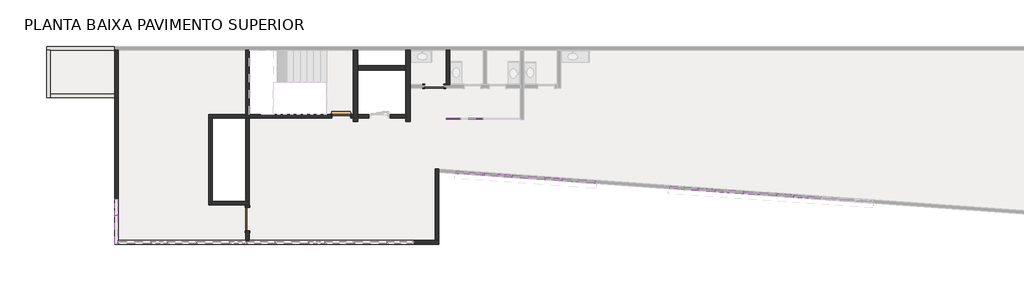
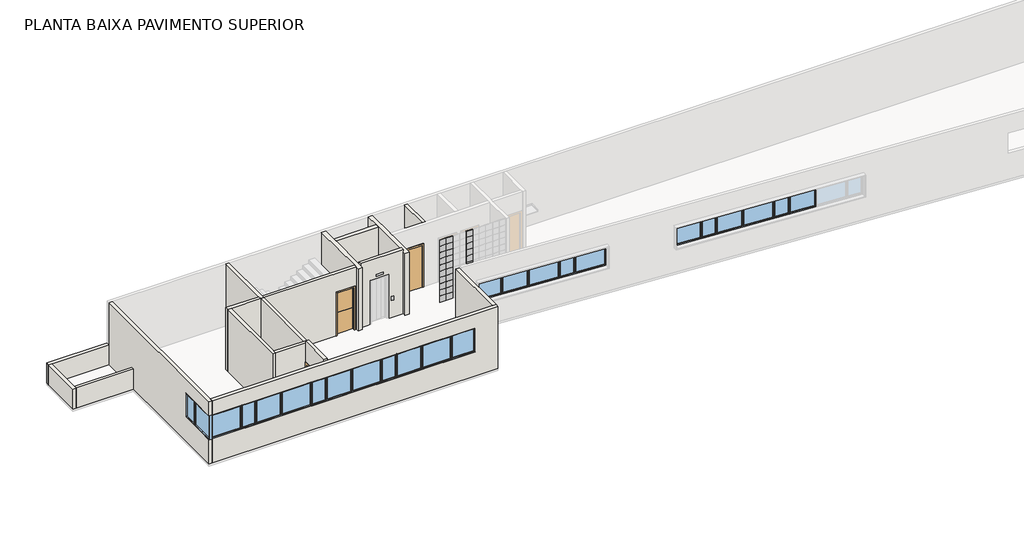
# One storey, part 1 of 4: 34 plates, 24 windows, 18 walls, 3 doors.
"""IFC4 building model written with IfcOpenShell, lengths in millimetres."""

from ifc_helpers import new_model, si_unit, frame, origin, place, context, project, spatial, polyline, outline, extrude, faceted_brep, transform, mapped, element, save
from components import door_1000_x_2100_mm_77822ca1, door_80_x_210_cm_69db3ced, door_800_x_2100_mm_905e31af, painel_do_sistema_73d1a4aa, aluminum_exterior_window_2_wide_3886_0_70_x_1_00m_ebdd4f97, aluminum_exterior_window_2_wide_3886_0_70_x_1_20m_e8476e25, aluminum_exterior_window_2_wide_3886_0_70_x_1_20m_6c9d0a82, aluminum_exterior_window_2_wide_3886_1_10_x_1_20m_a2e28436, aluminum_exterior_window_2_wide_3886_1_15_x_1_00m_830be03d, aluminum_exterior_window_2_wide_3886_1_20_x_1_00m_ff6d45cf, aluminum_exterior_window_2_wide_3886_1_20_x_1_20m_544ea9df, aluminum_exterior_window_2_wide_3886_1_40_x_1_00m_dec34682, aluminum_exterior_window_2_wide_3886_1_40_x_1_20m_806e9f65, aluminum_exterior_window_2_wide_3886_1_40_x_1_20m_cee707eb

model = new_model("IFC4")

# Units and contexts
model_context = context("Model", 3, world=origin())
ifc_project = project(units=[si_unit("LENGTHUNIT", "METRE", prefix="MILLI")], contexts=[model_context])

# Site, building, storey
site = spatial("IfcSite", under=ifc_project)
building = spatial("IfcBuilding", under=site)
storey = spatial("IfcBuildingStorey", under=building, Name="PLANTA BAIXA PAVIMENTO SUPERIOR", Elevation=4000.0)

# Doors
placement = place(None, origin())
door_1000_x_2100_mm_shape = door_1000_x_2100_mm_77822ca1(model_context)
element("IfcDoor", 1, ObjectType="M_Folha única : 1000 x 2100 mm", at=placement, inside=storey, context=model_context, shape_type="MappedRepresentation", body=[
    mapped(door_1000_x_2100_mm_shape, transform((-8979.6326345, -9991.1116245, 4000.0), x_axis=(0.0, 1.0, 0.0), y_axis=(-1.0, 0.0, 0.0), z_axis=(0.0, 0.0, 1.0))),
])
door_80_x_210_cm_shape = door_80_x_210_cm_69db3ced(model_context)
element("IfcDoor", 2, ObjectType="Dutch_door_-_2_stacked_leaves_2298 : 80 x 210 cm", at=placement, inside=storey, context=model_context, shape_type="MappedRepresentation", body=[
    mapped(door_80_x_210_cm_shape, transform((-5054.6326345, -5666.1116245, 4000.0), x_axis=(1.0, 0.0, 0.0), y_axis=(0.0, 1.0, 0.0), z_axis=(0.0, 0.0, 1.0))),
])
door_800_x_2100_mm_shape = door_800_x_2100_mm_905e31af(model_context)
element("IfcDoor", 3, ObjectType="M_Folha única : 800 x 2100 mm", at=placement, inside=storey, context=model_context, shape_type="MappedRepresentation", body=[
    mapped(door_800_x_2100_mm_shape, transform((-1154.6326345, -4416.1116245, 4000.0), x_axis=(-1.0, 0.0, 0.0), y_axis=(0.0, -1.0, 0.0), z_axis=(0.0, 0.0, 1.0))),
])

# Plates
painel_do_sistema_shape = painel_do_sistema_73d1a4aa(model_context)
element("IfcPlate", 4, ObjectType="Painel do sistema : Envidraçado", at=placement, inside=storey, context=model_context, shape_type="MappedRepresentation", body=[
    mapped(painel_do_sistema_shape, transform((740.3673656, -5741.1116245, 4000.0), x_axis=(-1.0, 0.0, 0.0), y_axis=(0.0, -1.0, 0.0), z_axis=(0.0, 0.0, 1.0))),
])
element("IfcPlate", 5, ObjectType="Painel do sistema : Envidraçado", at=placement, inside=storey, context=model_context, shape_type="MappedRepresentation", body=[
    mapped(painel_do_sistema_shape, transform((740.3673656, -5741.1116245, 4310.0), x_axis=(-1.0, 0.0, 0.0), y_axis=(0.0, -1.0, 0.0), z_axis=(0.0, 0.0, 1.0))),
])
element("IfcPlate", 6, ObjectType="Painel do sistema : Envidraçado", at=placement, inside=storey, context=model_context, shape_type="MappedRepresentation", body=[
    mapped(painel_do_sistema_shape, transform((740.3673656, -5741.1116245, 4620.0), x_axis=(-1.0, 0.0, 0.0), y_axis=(0.0, -1.0, 0.0), z_axis=(0.0, 0.0, 1.0))),
])
element("IfcPlate", 7, ObjectType="Painel do sistema : Envidraçado", at=placement, inside=storey, context=model_context, shape_type="MappedRepresentation", body=[
    mapped(painel_do_sistema_shape, transform((740.3673656, -5741.1116245, 4930.0), x_axis=(-1.0, 0.0, 0.0), y_axis=(0.0, -1.0, 0.0), z_axis=(0.0, 0.0, 1.0))),
])
element("IfcPlate", 8, ObjectType="Painel do sistema : Envidraçado", at=placement, inside=storey, context=model_context, shape_type="MappedRepresentation", body=[
    mapped(painel_do_sistema_shape, transform((740.3673656, -5741.1116245, 5240.0), x_axis=(-1.0, 0.0, 0.0), y_axis=(0.0, -1.0, 0.0), z_axis=(0.0, 0.0, 1.0))),
])
element("IfcPlate", 9, ObjectType="Painel do sistema : Envidraçado", at=placement, inside=storey, context=model_context, shape_type="MappedRepresentation", body=[
    mapped(painel_do_sistema_shape, transform((740.3673656, -5741.1116245, 5550.0), x_axis=(-1.0, 0.0, 0.0), y_axis=(0.0, -1.0, 0.0), z_axis=(0.0, 0.0, 1.0))),
])
element("IfcPlate", 10, ObjectType="Painel do sistema : Envidraçado", at=placement, inside=storey, context=model_context, shape_type="MappedRepresentation", body=[
    mapped(painel_do_sistema_shape, transform((740.3673656, -5741.1116245, 5860.0), x_axis=(-1.0, 0.0, 0.0), y_axis=(0.0, -1.0, 0.0), z_axis=(0.0, 0.0, 1.0))),
])
element("IfcPlate", 11, ObjectType="Painel do sistema : Envidraçado", at=placement, inside=storey, context=model_context, shape_type="MappedRepresentation", body=[
    mapped(painel_do_sistema_shape, transform((740.3673656, -5741.1116245, 6170.0), x_axis=(-1.0, 0.0, 0.0), y_axis=(0.0, -1.0, 0.0), z_axis=(0.0, 0.0, 1.0))),
])
element("IfcPlate", 12, ObjectType="Painel do sistema : Envidraçado", at=placement, inside=storey, context=model_context, shape_type="MappedRepresentation", body=[
    mapped(painel_do_sistema_shape, transform((740.3673656, -5741.1116245, 6480.0), x_axis=(-1.0, 0.0, 0.0), y_axis=(0.0, -1.0, 0.0), z_axis=(0.0, 0.0, 1.0))),
])
element("IfcPlate", 13, ObjectType="Painel do sistema : Envidraçado", at=placement, inside=storey, context=model_context, shape_type="MappedRepresentation", body=[
    mapped(painel_do_sistema_shape, transform((740.3673656, -5741.1116245, 6790.0), x_axis=(-1.0, 0.0, 0.0), y_axis=(0.0, -1.0, 0.0), z_axis=(0.0, 0.0, 1.0))),
])
element("IfcPlate", 14, ObjectType="Painel do sistema : Envidraçado", at=placement, inside=storey, context=model_context, shape_type="MappedRepresentation", body=[
    mapped(painel_do_sistema_shape, transform((430.3673656, -5741.1116245, 4000.0), x_axis=(-1.0, 0.0, 0.0), y_axis=(0.0, -1.0, 0.0), z_axis=(0.0, 0.0, 1.0))),
])
element("IfcPlate", 15, ObjectType="Painel do sistema : Envidraçado", at=placement, inside=storey, context=model_context, shape_type="MappedRepresentation", body=[
    mapped(painel_do_sistema_shape, transform((430.3673656, -5741.1116245, 4310.0), x_axis=(-1.0, 0.0, 0.0), y_axis=(0.0, -1.0, 0.0), z_axis=(0.0, 0.0, 1.0))),
])
element("IfcPlate", 16, ObjectType="Painel do sistema : Envidraçado", at=placement, inside=storey, context=model_context, shape_type="MappedRepresentation", body=[
    mapped(painel_do_sistema_shape, transform((430.3673656, -5741.1116245, 4620.0), x_axis=(-1.0, 0.0, 0.0), y_axis=(0.0, -1.0, 0.0), z_axis=(0.0, 0.0, 1.0))),
])
element("IfcPlate", 17, ObjectType="Painel do sistema : Envidraçado", at=placement, inside=storey, context=model_context, shape_type="MappedRepresentation", body=[
    mapped(painel_do_sistema_shape, transform((430.3673656, -5741.1116245, 4930.0), x_axis=(-1.0, 0.0, 0.0), y_axis=(0.0, -1.0, 0.0), z_axis=(0.0, 0.0, 1.0))),
])
element("IfcPlate", 18, ObjectType="Painel do sistema : Envidraçado", at=placement, inside=storey, context=model_context, shape_type="MappedRepresentation", body=[
    mapped(painel_do_sistema_shape, transform((-189.6326343, -5741.1116245, 4000.0), x_axis=(-1.0, 0.0, 0.0), y_axis=(0.0, -1.0, 0.0), z_axis=(0.0, 0.0, 1.0))),
])
element("IfcPlate", 19, ObjectType="Painel do sistema : Envidraçado", at=placement, inside=storey, context=model_context, shape_type="MappedRepresentation", body=[
    mapped(painel_do_sistema_shape, transform((-189.6326343, -5741.1116245, 4310.0), x_axis=(-1.0, 0.0, 0.0), y_axis=(0.0, -1.0, 0.0), z_axis=(0.0, 0.0, 1.0))),
])
element("IfcPlate", 20, ObjectType="Painel do sistema : Envidraçado", at=placement, inside=storey, context=model_context, shape_type="MappedRepresentation", body=[
    mapped(painel_do_sistema_shape, transform((-189.6326343, -5741.1116245, 4620.0), x_axis=(-1.0, 0.0, 0.0), y_axis=(0.0, -1.0, 0.0), z_axis=(0.0, 0.0, 1.0))),
])
element("IfcPlate", 21, ObjectType="Painel do sistema : Envidraçado", at=placement, inside=storey, context=model_context, shape_type="MappedRepresentation", body=[
    mapped(painel_do_sistema_shape, transform((-189.6326343, -5741.1116245, 4930.0), x_axis=(-1.0, 0.0, 0.0), y_axis=(0.0, -1.0, 0.0), z_axis=(0.0, 0.0, 1.0))),
])
element("IfcPlate", 22, ObjectType="Painel do sistema : Envidraçado", at=placement, inside=storey, context=model_context, shape_type="MappedRepresentation", body=[
    mapped(painel_do_sistema_shape, transform((-189.6326343, -5741.1116245, 5240.0), x_axis=(-1.0, 0.0, 0.0), y_axis=(0.0, -1.0, 0.0), z_axis=(0.0, 0.0, 1.0))),
])
element("IfcPlate", 23, ObjectType="Painel do sistema : Envidraçado", at=placement, inside=storey, context=model_context, shape_type="MappedRepresentation", body=[
    mapped(painel_do_sistema_shape, transform((-189.6326343, -5741.1116245, 5550.0), x_axis=(-1.0, 0.0, 0.0), y_axis=(0.0, -1.0, 0.0), z_axis=(0.0, 0.0, 1.0))),
])
element("IfcPlate", 24, ObjectType="Painel do sistema : Envidraçado", at=placement, inside=storey, context=model_context, shape_type="MappedRepresentation", body=[
    mapped(painel_do_sistema_shape, transform((-189.6326343, -5741.1116245, 5860.0), x_axis=(-1.0, 0.0, 0.0), y_axis=(0.0, -1.0, 0.0), z_axis=(0.0, 0.0, 1.0))),
])
element("IfcPlate", 25, ObjectType="Painel do sistema : Envidraçado", at=placement, inside=storey, context=model_context, shape_type="MappedRepresentation", body=[
    mapped(painel_do_sistema_shape, transform((-189.6326343, -5741.1116245, 6170.0), x_axis=(-1.0, 0.0, 0.0), y_axis=(0.0, -1.0, 0.0), z_axis=(0.0, 0.0, 1.0))),
])
element("IfcPlate", 26, ObjectType="Painel do sistema : Envidraçado", at=placement, inside=storey, context=model_context, shape_type="MappedRepresentation", body=[
    mapped(painel_do_sistema_shape, transform((-189.6326343, -5741.1116245, 6480.0), x_axis=(-1.0, 0.0, 0.0), y_axis=(0.0, -1.0, 0.0), z_axis=(0.0, 0.0, 1.0))),
])
element("IfcPlate", 27, ObjectType="Painel do sistema : Envidraçado", at=placement, inside=storey, context=model_context, shape_type="MappedRepresentation", body=[
    mapped(painel_do_sistema_shape, transform((-189.6326343, -5741.1116245, 6790.0), x_axis=(-1.0, 0.0, 0.0), y_axis=(0.0, -1.0, 0.0), z_axis=(0.0, 0.0, 1.0))),
])
element("IfcPlate", 28, ObjectType="Painel do sistema : Envidraçado", at=placement, inside=storey, context=model_context, shape_type="MappedRepresentation", body=[
    mapped(painel_do_sistema_shape, transform((-499.6326344, -5741.1116245, 4000.0), x_axis=(-1.0, 0.0, 0.0), y_axis=(0.0, -1.0, 0.0), z_axis=(0.0, 0.0, 1.0))),
])
element("IfcPlate", 29, ObjectType="Painel do sistema : Envidraçado", at=placement, inside=storey, context=model_context, shape_type="MappedRepresentation", body=[
    mapped(painel_do_sistema_shape, transform((-499.6326344, -5741.1116245, 4310.0), x_axis=(-1.0, 0.0, 0.0), y_axis=(0.0, -1.0, 0.0), z_axis=(0.0, 0.0, 1.0))),
])
element("IfcPlate", 30, ObjectType="Painel do sistema : Envidraçado", at=placement, inside=storey, context=model_context, shape_type="MappedRepresentation", body=[
    mapped(painel_do_sistema_shape, transform((-499.6326344, -5741.1116245, 4620.0), x_axis=(-1.0, 0.0, 0.0), y_axis=(0.0, -1.0, 0.0), z_axis=(0.0, 0.0, 1.0))),
])
element("IfcPlate", 31, ObjectType="Painel do sistema : Envidraçado", at=placement, inside=storey, context=model_context, shape_type="MappedRepresentation", body=[
    mapped(painel_do_sistema_shape, transform((-499.6326344, -5741.1116245, 4930.0), x_axis=(-1.0, 0.0, 0.0), y_axis=(0.0, -1.0, 0.0), z_axis=(0.0, 0.0, 1.0))),
])
element("IfcPlate", 32, ObjectType="Painel do sistema : Envidraçado", at=placement, inside=storey, context=model_context, shape_type="MappedRepresentation", body=[
    mapped(painel_do_sistema_shape, transform((-499.6326344, -5741.1116245, 5240.0), x_axis=(-1.0, 0.0, 0.0), y_axis=(0.0, -1.0, 0.0), z_axis=(0.0, 0.0, 1.0))),
])
element("IfcPlate", 33, ObjectType="Painel do sistema : Envidraçado", at=placement, inside=storey, context=model_context, shape_type="MappedRepresentation", body=[
    mapped(painel_do_sistema_shape, transform((-499.6326344, -5741.1116245, 5550.0), x_axis=(-1.0, 0.0, 0.0), y_axis=(0.0, -1.0, 0.0), z_axis=(0.0, 0.0, 1.0))),
])
element("IfcPlate", 34, ObjectType="Painel do sistema : Envidraçado", at=placement, inside=storey, context=model_context, shape_type="MappedRepresentation", body=[
    mapped(painel_do_sistema_shape, transform((-499.6326344, -5741.1116245, 5860.0), x_axis=(-1.0, 0.0, 0.0), y_axis=(0.0, -1.0, 0.0), z_axis=(0.0, 0.0, 1.0))),
])
element("IfcPlate", 35, ObjectType="Painel do sistema : Envidraçado", at=placement, inside=storey, context=model_context, shape_type="MappedRepresentation", body=[
    mapped(painel_do_sistema_shape, transform((-499.6326344, -5741.1116245, 6170.0), x_axis=(-1.0, 0.0, 0.0), y_axis=(0.0, -1.0, 0.0), z_axis=(0.0, 0.0, 1.0))),
])
element("IfcPlate", 36, ObjectType="Painel do sistema : Envidraçado", at=placement, inside=storey, context=model_context, shape_type="MappedRepresentation", body=[
    mapped(painel_do_sistema_shape, transform((-499.6326344, -5741.1116245, 6480.0), x_axis=(-1.0, 0.0, 0.0), y_axis=(0.0, -1.0, 0.0), z_axis=(0.0, 0.0, 1.0))),
])
element("IfcPlate", 37, ObjectType="Painel do sistema : Envidraçado", at=placement, inside=storey, context=model_context, shape_type="MappedRepresentation", body=[
    mapped(painel_do_sistema_shape, transform((-499.6326344, -5741.1116245, 6790.0), x_axis=(-1.0, 0.0, 0.0), y_axis=(0.0, -1.0, 0.0), z_axis=(0.0, 0.0, 1.0))),
])

# Walls
element("IfcWall", 38, ObjectType="Genérica - 15cm", at=placement, inside=storey, context=model_context, shape_type="Brep", body=[
    faceted_brep([(-14554.6326345, -2891.1116245, 4000.0), (-14554.6326345, -4741.1116245, 4000.0), (-14554.6326345, -4891.1116245, 4000.0), (-14554.6326345, -11041.1116245, 4000.0), (-14554.6326345, -11041.1116245, 5200.0), (-14554.6326345, -9141.1116245, 5200.0), (-14554.6326345, -9141.1116245, 6400.0), (-14554.6326345, -11041.1116245, 6400.0), (-14554.6326345, -11041.1116245, 7100.0), (-14554.6326345, -2891.1116245, 7100.0), (-14404.6326345, -11041.1116245, 4000.0), (-14404.6326345, -10891.1116245, 4000.0), (-14404.6326345, -2891.1116245, 4000.0), (-14404.6326345, -2891.1116245, 7100.0), (-14404.6326345, -10891.1116245, 7100.0), (-14404.6326345, -11041.1116245, 7100.0), (-14404.6326345, -11041.1116245, 6400.0), (-14404.6326345, -10891.1116245, 6400.0), (-14404.6326345, -9141.1116245, 6400.0), (-14404.6326345, -9141.1116245, 5200.0), (-14404.6326345, -10891.1116245, 5200.0), (-14404.6326345, -11041.1116245, 5200.0), (-14414.9326345, -11041.1116245, 5200.0), (-14414.9326345, -11041.1116245, 6400.0)], [[[0, 1, 2, 3, 4, 5, 6, 7, 8, 9]], [[10, 11, 12, 13, 14, 15, 16, 17, 18, 19, 20, 21]], [[3, 2, 1, 0, 12, 11, 10]], [[3, 10, 21, 22, 4]], [[15, 8, 7, 23, 16]], [[12, 0, 9, 13]], [[9, 8, 15, 14, 13]], [[19, 5, 4, 22, 21, 20]], [[6, 18, 17, 16, 23, 7]], [[18, 6, 5, 19]]]),
])
element("IfcWall", 39, ObjectType="Genérica - 15cm", at=placement, inside=storey, context=model_context, shape_type="Brep", body=[
    faceted_brep([(-14404.6326345, -11041.1116245, 4000.0), (-954.6326345, -11041.1116245, 4000.0), (-954.6326345, -11041.1116245, 7100.0), (-14404.6326345, -11041.1116245, 7100.0), (-14404.6326345, -11041.1116245, 6400.0), (-2014.9326345, -11041.1116245, 6400.0), (-2014.9326345, -11041.1116245, 5200.0), (-14404.6326345, -11041.1116245, 5200.0), (-954.6326345, -10891.1116245, 4000.0), (-1104.6326345, -10891.1116245, 4000.0), (-8904.6326345, -10891.1116245, 4000.0), (-9054.6326345, -10891.1116245, 4000.0), (-14404.6326345, -10891.1116245, 4000.0), (-14404.6326345, -10891.1116245, 5200.0), (-2014.9326345, -10891.1116245, 5200.0), (-2014.9326345, -10891.1116245, 6400.0), (-14404.6326345, -10891.1116245, 6400.0), (-14404.6326345, -10891.1116245, 7100.0), (-1104.6326345, -10891.1116245, 7100.0), (-954.6326345, -10891.1116245, 7100.0)], [[[0, 1, 2, 3, 4, 5, 6, 7]], [[8, 9, 10, 11, 12, 13, 14, 15, 16, 17, 18, 19]], [[1, 0, 12, 11, 10, 9, 8]], [[12, 0, 7, 13]], [[3, 17, 16, 4]], [[2, 1, 8, 19]], [[3, 2, 19, 18, 17]], [[13, 7, 6, 14]], [[4, 16, 15, 5]], [[5, 15, 14, 6]]]),
])
element("IfcWall", 40, ObjectType="Genérica - 15cm", at=placement, inside=storey, context=model_context, shape_type="Brep", body=[
    faceted_brep([(-954.6326345, -10891.1116245, 4000.0), (-954.6326345, -8041.1116245, 4000.0), (-954.6326345, -7890.7380353, 4000.0), (-954.6326345, -7890.7380353, 7100.0), (-954.6326345, -8071.1116245, 7100.0), (-954.6326345, -10891.1116245, 7100.0), (-1104.6326345, -10891.1116245, 4000.0), (-1104.6326345, -10891.1116245, 7100.0), (-1104.6326345, -7880.144815, 7100.0), (-1104.6326345, -7880.144815, 4000.0)], [[[0, 1, 2, 3, 4, 5]], [[6, 7, 8, 9]], [[2, 1, 0, 6, 9]], [[0, 5, 7, 6]], [[3, 2, 9, 8]], [[5, 4, 3, 8, 7]]]),
])
element("IfcWall", 41, ObjectType="Genérica - 15cm", at=placement, inside=storey, context=model_context, shape_type="Brep", body=[
    faceted_brep([(-9054.6326345, -2891.1116245, 4000.0), (-9054.6326345, -5591.1116245, 4000.0), (-9054.6326345, -5741.1116245, 4000.0), (-9054.6326345, -5741.1116245, 7100.0), (-9054.6326345, -5591.1116245, 7100.0), (-9054.6326345, -2891.1116245, 7100.0), (-8904.6326345, -2891.1116245, 4000.0), (-8904.6326345, -2891.1116245, 7100.0), (-8904.6326345, -5591.1116245, 7100.0), (-8904.6326345, -5741.1116245, 7100.0), (-8904.6326345, -5741.1116245, 4000.0), (-8904.6326345, -5591.1116245, 4000.0)], [[[0, 1, 2, 3, 4, 5]], [[6, 7, 8, 9, 10, 11]], [[2, 1, 0, 6, 11, 10]], [[0, 5, 7, 6]], [[3, 2, 10, 9]], [[5, 4, 3, 9, 8, 7]]]),
])
element("IfcWall", 42, ObjectType="Genérica - 15cm", at=placement, inside=storey, context=model_context, shape_type="Brep", body=[
    faceted_brep([(-9054.6326345, -5591.1116245, 4000.0), (-10604.6326345, -5591.1116245, 4000.0), (-10604.6326345, -5591.1116245, 7100.0), (-9054.6326345, -5591.1116245, 7100.0), (-9054.6326345, -5741.1116245, 4000.0), (-9054.6326345, -5741.1116245, 7100.0), (-10454.6326345, -5741.1116245, 7100.0), (-10604.6326345, -5741.1116245, 7100.0), (-10604.6326345, -5741.1116245, 4000.0), (-10454.6326345, -5741.1116245, 4000.0)], [[[0, 1, 2, 3]], [[4, 5, 6, 7, 8, 9]], [[1, 0, 4, 9, 8]], [[0, 3, 5, 4]], [[2, 1, 8, 7]], [[3, 2, 7, 6, 5]]]),
])
element("IfcWall", 43, ObjectType="Genérica - 15cm", at=placement, inside=storey, context=model_context, shape_type="Brep", body=[
    faceted_brep([(-10604.6326345, -5741.1116245, 4000.0), (-10604.6326345, -9391.1116245, 4000.0), (-10604.6326345, -9391.1116245, 7100.0), (-10604.6326345, -5741.1116245, 7100.0), (-10454.6326345, -5741.1116245, 4000.0), (-10454.6326345, -5741.1116245, 7100.0), (-10454.6326345, -9241.1116245, 7100.0), (-10454.6326345, -9391.1116245, 7100.0), (-10454.6326345, -9391.1116245, 4000.0), (-10454.6326345, -9241.1116245, 4000.0)], [[[0, 1, 2, 3]], [[4, 5, 6, 7, 8, 9]], [[1, 0, 4, 9, 8]], [[0, 3, 5, 4]], [[2, 1, 8, 7]], [[3, 2, 7, 6, 5]]]),
])
element("IfcWall", 44, ObjectType="Genérica - 15cm", at=placement, inside=storey, context=model_context, shape_type="Brep", body=[
    faceted_brep([(-10454.6326345, -9391.1116245, 4000.0), (-9054.6326345, -9391.1116245, 4000.0), (-8904.6326345, -9391.1116245, 4000.0), (-8904.6326345, -9391.1116245, 7100.0), (-10454.6326345, -9391.1116245, 7100.0), (-10454.6326345, -9241.1116245, 4000.0), (-10454.6326345, -9241.1116245, 7100.0), (-9054.6326345, -9241.1116245, 7100.0), (-8904.6326345, -9241.1116245, 7100.0), (-8904.6326345, -9241.1116245, 4000.0), (-9054.6326345, -9241.1116245, 4000.0)], [[[0, 1, 2, 3, 4]], [[5, 6, 7, 8, 9, 10]], [[2, 1, 0, 5, 10, 9]], [[0, 4, 6, 5]], [[3, 2, 9, 8]], [[4, 3, 8, 7, 6]]]),
])
element("IfcWall", 45, ObjectType="Genérica - 15cm", at=placement, inside=storey, context=model_context, shape_type="SweptSolid", body=[
    extrude(outline(polyline([(-8904.6326345, -5741.1116245), (-8904.6326345, -9241.1116245), (-9054.6326345, -9241.1116245), (-9054.6326345, -5741.1116245), (-8904.6326345, -5741.1116245)])), frame((0.0, 0.0, 4000.0), z_axis=(0.0, 0.0, 1.0), x_axis=(1.0, 0.0, 0.0)), (0.0, 0.0, 1.0), 3100.0),
])
element("IfcWall", 46, ObjectType="Genérica - 15cm", at=placement, inside=storey, context=model_context, shape_type="SweptSolid", body=[
    extrude(outline(polyline([(6159.0, -4629.2326345), (4000.0, -4629.2326345), (4000.0, -4554.6326345), (7100.0, -4554.6326345), (7100.0, -8904.6326345), (4000.0, -8904.6326345), (4000.0, -5480.0326345), (6159.0, -5480.0326345), (6159.0, -4629.2326345)])), frame((0.0, -5741.1116245, 0.0), z_axis=(0.0, 1.0, 0.0), x_axis=(0.0, 0.0, 1.0)), (0.0, 0.0, 1.0), 150.0),
])
element("IfcWall", 47, ObjectType="Genérica - 20cm", at=placement, inside=storey, context=model_context, shape_type="Brep", body=[
    faceted_brep([(-4554.6326345, -2891.1116245, 4000.0), (-4554.6326345, -5591.1116245, 4000.0), (-4554.6326345, -5741.1116245, 4000.0), (-4554.6326345, -5891.1116245, 4000.0), (-4554.6326345, -5891.1116245, 7100.0), (-4554.6326345, -5741.1116245, 7100.0), (-4554.6326345, -5591.1116245, 7100.0), (-4554.6326345, -2891.1116245, 7100.0), (-4354.6326345, -2891.1116245, 4000.0), (-4354.6326345, -2891.1116245, 7100.0), (-4354.6326345, -3541.1116245, 7100.0), (-4354.6326345, -3741.1116245, 7100.0), (-4354.6326345, -5591.1116245, 7100.0), (-4354.6326345, -5891.1116245, 7100.0), (-4354.6326345, -5891.1116245, 4000.0), (-4354.6326345, -5741.1116245, 4000.0), (-4354.6326345, -5591.1116245, 4000.0), (-4354.6326345, -3741.1116245, 4000.0), (-4354.6326345, -3541.1116245, 4000.0)], [[[0, 1, 2, 3, 4, 5, 6, 7]], [[8, 9, 10, 11, 12, 13, 14, 15, 16, 17, 18]], [[3, 2, 1, 0, 8, 18, 17, 16, 15, 14]], [[4, 3, 14, 13]], [[0, 7, 9, 8]], [[7, 6, 5, 4, 13, 12, 11, 10, 9]]]),
])
element("IfcWall", 48, ObjectType="Genérica - 20cm", at=placement, inside=storey, context=model_context, shape_type="Brep", body=[
    faceted_brep([(-2354.6326345, -2891.1116245, 4000.0), (-2354.6326345, -3541.1116245, 4000.0), (-2354.6326345, -3741.1116245, 4000.0), (-2354.6326345, -5591.1116245, 4000.0), (-2354.6326345, -5741.1116245, 4000.0), (-2354.6326345, -5891.1116245, 4000.0), (-2354.6326345, -5891.1116245, 7100.0), (-2354.6326345, -5591.1116245, 7100.0), (-2354.6326345, -3741.1116245, 7100.0), (-2354.6326345, -3541.1116245, 7100.0), (-2354.6326345, -2891.1116245, 7100.0), (-2154.6326345, -2891.1116245, 4000.0), (-2154.6326345, -2891.1116245, 7100.0), (-2154.6326345, -4341.1116245, 7100.0), (-2154.6326345, -4491.1116245, 7100.0), (-2154.6326345, -5891.1116245, 7100.0), (-2154.6326345, -5891.1116245, 4000.0), (-2154.6326345, -4491.1116245, 4000.0), (-2154.6326345, -4341.1116245, 4000.0)], [[[0, 1, 2, 3, 4, 5, 6, 7, 8, 9, 10]], [[11, 12, 13, 14, 15, 16, 17, 18]], [[5, 4, 3, 2, 1, 0, 11, 18, 17, 16]], [[6, 5, 16, 15]], [[0, 10, 12, 11]], [[10, 9, 8, 7, 6, 15, 14, 13, 12]]]),
])
element("IfcWall", 49, ObjectType="Genérica - 15cm", at=placement, inside=storey, context=model_context, shape_type="SweptSolid", body=[
    extrude(outline(polyline([(-654.6326345, -4341.1116245), (-654.6326345, -2891.1116245), (-504.6326345, -2891.1116245), (-504.6326345, -4341.1116245), (-654.6326345, -4341.1116245)])), frame((0.0, 0.0, 4000.0), z_axis=(0.0, 0.0, 1.0), x_axis=(1.0, 0.0, 0.0)), (0.0, 0.0, 1.0), 3100.0),
])
element("IfcWall", 50, ObjectType="Genérica - 20cm", at=placement, inside=storey, context=model_context, shape_type="SweptSolid", body=[
    extrude(outline(polyline([(-2354.6326345, -3741.1116245), (-4354.6326345, -3741.1116245), (-4354.6326345, -3541.1116245), (-2354.6326345, -3541.1116245), (-2354.6326345, -3741.1116245)])), frame((0.0, 0.0, 4000.0), z_axis=(0.0, 0.0, 1.0), x_axis=(1.0, 0.0, 0.0)), (0.0, 0.0, 1.0), 3100.0),
])
element("IfcWall", 51, ObjectType="Genérica - 15cm", at=placement, inside=storey, context=model_context, shape_type="Brep", body=[
    faceted_brep([(-14554.6326345, -2741.1116245, 4000.0), (-17404.6326345, -2741.1116245, 4000.0), (-17404.6326345, -2741.1116245, 5000.0), (-14554.6326345, -2741.1116245, 5000.0), (-14554.6326345, -2891.1116245, 4000.0), (-14554.6326345, -2891.1116245, 5000.0), (-17254.6326345, -2891.1116245, 5000.0), (-17404.6326345, -2891.1116245, 5000.0), (-17404.6326345, -2891.1116245, 4000.0), (-17254.6326345, -2891.1116245, 4000.0)], [[[0, 1, 2, 3]], [[4, 5, 6, 7, 8, 9]], [[1, 0, 4, 9, 8]], [[3, 2, 7, 6, 5]], [[0, 3, 5, 4]], [[2, 1, 8, 7]]]),
])
element("IfcWall", 52, ObjectType="Genérica - 15cm", at=placement, inside=storey, context=model_context, shape_type="Brep", body=[
    faceted_brep([(-17404.6326345, -2891.1116245, 4000.0), (-17404.6326345, -4891.1116245, 4000.0), (-17404.6326345, -4891.1116245, 5000.0), (-17404.6326345, -2891.1116245, 5000.0), (-17254.6326345, -2891.1116245, 4000.0), (-17254.6326345, -2891.1116245, 5000.0), (-17254.6326345, -4741.1116245, 5000.0), (-17254.6326345, -4891.1116245, 5000.0), (-17254.6326345, -4891.1116245, 4000.0), (-17254.6326345, -4741.1116245, 4000.0)], [[[0, 1, 2, 3]], [[4, 5, 6, 7, 8, 9]], [[1, 0, 4, 9, 8]], [[3, 2, 7, 6, 5]], [[0, 3, 5, 4]], [[2, 1, 8, 7]]]),
])
element("IfcWall", 53, ObjectType="Genérica - 15cm", at=placement, inside=storey, context=model_context, shape_type="SweptSolid", body=[
    extrude(outline(polyline([(-14554.6326345, -4891.1116245), (-17254.6326345, -4891.1116245), (-17254.6326345, -4741.1116245), (-14554.6326345, -4741.1116245), (-14554.6326345, -4891.1116245)])), frame((0.0, 0.0, 4000.0), z_axis=(0.0, 0.0, 1.0), x_axis=(1.0, 0.0, 0.0)), (0.0, 0.0, 1.0), 1000.0),
])
element("IfcWall", 54, ObjectType="Genérica - 15cm", at=placement, inside=storey, context=model_context, shape_type="Brep", body=[
    faceted_brep([(-9054.6326345, -9391.1116245, 4000.0), (-9054.6326345, -9491.1116245, 4000.0), (-9054.6326345, -9491.1116245, 6100.0), (-9054.6326345, -10491.1116245, 6100.0), (-9054.6326345, -10491.1116245, 4000.0), (-9054.6326345, -10891.1116245, 4000.0), (-9054.6326345, -10891.1116245, 7200.0), (-9054.6326345, -9391.1116245, 7200.0), (-8904.6326345, -9491.1116245, 6100.0), (-8904.6326345, -9491.1116245, 4000.0), (-8904.6326345, -9391.1116245, 4000.0), (-8904.6326345, -9391.1116245, 7100.0), (-8904.6326345, -9391.1116245, 7200.0), (-8904.6326345, -10891.1116245, 7200.0), (-8904.6326345, -10891.1116245, 4000.0), (-8904.6326345, -10491.1116245, 4000.0), (-8904.6326345, -10491.1116245, 6100.0)], [[[0, 1, 2, 3, 4, 5, 6, 7]], [[8, 9, 10, 11, 12, 13, 14, 15, 16]], [[15, 14, 5, 4]], [[10, 9, 1, 0]], [[7, 6, 13, 12]], [[0, 7, 12, 11, 10]], [[6, 5, 14, 13]], [[2, 1, 9, 8]], [[3, 2, 8, 16]], [[4, 3, 16, 15]]]),
])
element("IfcWall", 55, ObjectType="Genérica - 15cm", at=placement, inside=storey, context=model_context, shape_type="SweptSolid", body=[
    extrude(outline(polyline([(7200.0, -2354.6326345), (7200.0, -4354.6326345), (4000.0, -4354.6326345), (4000.0, -3904.6326345), (6200.0, -3904.6326345), (6200.0, -3004.6326345), (4000.0, -3004.6326345), (4000.0, -2354.6326345), (7200.0, -2354.6326345)])), frame((0.0, -5741.1116245, 0.0), z_axis=(0.0, 1.0, 0.0), x_axis=(0.0, 0.0, 1.0)), (0.0, 0.0, 1.0), 150.0),
])

# Windows
aluminum_exterior_window_2_wide_3886_0_70_x_1_00m_shape = aluminum_exterior_window_2_wide_3886_0_70_x_1_00m_ebdd4f97(model_context)
element("IfcWindow", 56, ObjectType="Aluminum_Exterior_Window_-_2_Wide_3886 : 0,70 x 1,00m", at=placement, inside=storey, context=model_context, shape_type="MappedRepresentation", body=[
    mapped(aluminum_exterior_window_2_wide_3886_0_70_x_1_00m_shape, transform((4874.9026269, -8404.2388419, 4284.0), x_axis=(0.9975155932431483, -0.07044601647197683, 0.0), y_axis=(0.07044601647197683, 0.9975155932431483, 0.0), z_axis=(0.0, 0.0, 1.0))),
])
element("IfcWindow", 57, ObjectType="Aluminum_Exterior_Window_-_2_Wide_3886 : 0,70 x 1,00m", at=placement, inside=storey, context=model_context, shape_type="MappedRepresentation", body=[
    mapped(aluminum_exterior_window_2_wide_3886_0_70_x_1_00m_shape, transform((11288.9278914, -8857.2067278, 4284.0), x_axis=(0.9975155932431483, -0.07044601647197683, 0.0), y_axis=(0.07044601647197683, 0.9975155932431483, 0.0), z_axis=(0.0, 0.0, 1.0))),
])
element("IfcWindow", 58, ObjectType="Aluminum_Exterior_Window_-_2_Wide_3886 : 0,70 x 1,00m", at=placement, inside=storey, context=model_context, shape_type="MappedRepresentation", body=[
    mapped(aluminum_exterior_window_2_wide_3886_0_70_x_1_00m_shape, transform((14580.7293491, -9089.6785822, 4284.0), x_axis=(0.9975155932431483, -0.07044601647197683, 0.0), y_axis=(0.07044601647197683, 0.9975155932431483, 0.0), z_axis=(0.0, 0.0, 1.0))),
])
aluminum_exterior_window_2_wide_3886_0_70_x_1_20m_shape = aluminum_exterior_window_2_wide_3886_0_70_x_1_20m_e8476e25(model_context)
element("IfcWindow", 59, ObjectType="Aluminum_Exterior_Window_-_2_Wide_3886 : 0,70 x 1,20m", at=placement, inside=storey, context=model_context, shape_type="MappedRepresentation", body=[
    mapped(aluminum_exterior_window_2_wide_3886_0_70_x_1_20m_shape, transform((-14506.1901591, -8469.5116245, 4184.0), x_axis=(0.0, 1.0, 0.0), y_axis=(-1.0, 0.0, 0.0), z_axis=(0.0, 0.0, 1.0))),
])
element("IfcWindow", 60, ObjectType="Aluminum_Exterior_Window_-_2_Wide_3886 : 0,70 x 1,20m", at=placement, inside=storey, context=model_context, shape_type="MappedRepresentation", body=[
    mapped(aluminum_exterior_window_2_wide_3886_0_70_x_1_20m_shape, transform((-13686.5326345, -10992.6691491, 4184.0), x_axis=(-1.0, 0.0, 0.0), y_axis=(0.0, -1.0, 0.0), z_axis=(0.0, 0.0, 1.0))),
])
aluminum_exterior_window_2_wide_3886_0_70_x_1_20m_2_shape = aluminum_exterior_window_2_wide_3886_0_70_x_1_20m_6c9d0a82(model_context)
element("IfcWindow", 61, ObjectType="Aluminum_Exterior_Window_-_2_Wide_3886 : 0,70 x 1,20m", at=placement, inside=storey, context=model_context, shape_type="MappedRepresentation", body=[
    mapped(aluminum_exterior_window_2_wide_3886_0_70_x_1_20m_2_shape, transform((-8343.3326345, -10992.6691491, 4184.0), x_axis=(1.0, 0.0, 0.0), y_axis=(0.0, 1.0, 0.0), z_axis=(0.0, 0.0, 1.0))),
])
element("IfcWindow", 62, ObjectType="Aluminum_Exterior_Window_-_2_Wide_3886 : 0,70 x 1,20m", at=placement, inside=storey, context=model_context, shape_type="MappedRepresentation", body=[
    mapped(aluminum_exterior_window_2_wide_3886_0_70_x_1_20m_2_shape, transform((-5043.3326345, -10992.6691491, 4184.0), x_axis=(1.0, 0.0, 0.0), y_axis=(0.0, 1.0, 0.0), z_axis=(0.0, 0.0, 1.0))),
])
aluminum_exterior_window_2_wide_3886_1_10_x_1_20m_shape = aluminum_exterior_window_2_wide_3886_1_10_x_1_20m_a2e28436(model_context)
element("IfcWindow", 63, ObjectType="Aluminum_Exterior_Window_-_2_Wide_3886 : 1,10 x 1,20m", at=placement, inside=storey, context=model_context, shape_type="MappedRepresentation", body=[
    mapped(aluminum_exterior_window_2_wide_3886_1_10_x_1_20m_shape, transform((-1743.3326345, -10992.6691491, 4140.0), x_axis=(1.0, 0.0, 0.0), y_axis=(0.0, 1.0, 0.0), z_axis=(0.0, 0.0, 1.0))),
])
aluminum_exterior_window_2_wide_3886_1_15_x_1_00m_shape = aluminum_exterior_window_2_wide_3886_1_15_x_1_00m_830be03d(model_context)
element("IfcWindow", 64, ObjectType="Aluminum_Exterior_Window_-_2_Wide_3886 : 1,15 x 1,00m", at=placement, inside=storey, context=model_context, shape_type="MappedRepresentation", body=[
    mapped(aluminum_exterior_window_2_wide_3886_1_15_x_1_00m_shape, transform((1134.2191522, -8140.0662801, 4284.0), x_axis=(0.9975155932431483, -0.07044601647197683, 0.0), y_axis=(0.07044601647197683, 0.9975155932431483, 0.0), z_axis=(0.0, 0.0, 1.0))),
])
aluminum_exterior_window_2_wide_3886_1_20_x_1_00m_shape = aluminum_exterior_window_2_wide_3886_1_20_x_1_00m_ff6d45cf(model_context)
element("IfcWindow", 65, ObjectType="Aluminum_Exterior_Window_-_2_Wide_3886 : 1,20 x 1,00m", at=placement, inside=storey, context=model_context, shape_type="MappedRepresentation", body=[
    mapped(aluminum_exterior_window_2_wide_3886_1_20_x_1_00m_shape, transform((2281.3620844, -8221.0791991, 4284.0), x_axis=(0.9975155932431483, -0.07044601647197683, 0.0), y_axis=(0.07044601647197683, 0.9975155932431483, 0.0), z_axis=(0.0, 0.0, 1.0))),
])
element("IfcWindow", 66, ObjectType="Aluminum_Exterior_Window_-_2_Wide_3886 : 1,20 x 1,00m", at=placement, inside=storey, context=model_context, shape_type="MappedRepresentation", body=[
    mapped(aluminum_exterior_window_2_wide_3886_1_20_x_1_00m_shape, transform((10091.9091795, -8772.671508, 4284.0), x_axis=(0.9975155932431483, -0.07044601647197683, 0.0), y_axis=(0.07044601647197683, 0.9975155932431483, 0.0), z_axis=(0.0, 0.0, 1.0))),
])
element("IfcWindow", 67, ObjectType="Aluminum_Exterior_Window_-_2_Wide_3886 : 1,20 x 1,00m", at=placement, inside=storey, context=model_context, shape_type="MappedRepresentation", body=[
    mapped(aluminum_exterior_window_2_wide_3886_1_20_x_1_00m_shape, transform((11987.1888067, -8906.5189393, 4284.0), x_axis=(0.9975155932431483, -0.07044601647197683, 0.0), y_axis=(0.07044601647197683, 0.9975155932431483, 0.0), z_axis=(0.0, 0.0, 1.0))),
])
element("IfcWindow", 68, ObjectType="Aluminum_Exterior_Window_-_2_Wide_3886 : 1,20 x 1,00m", at=placement, inside=storey, context=model_context, shape_type="MappedRepresentation", body=[
    mapped(aluminum_exterior_window_2_wide_3886_1_20_x_1_00m_shape, transform((15278.9902644, -9138.9907937, 4284.0), x_axis=(0.9975155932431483, -0.07044601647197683, 0.0), y_axis=(0.07044601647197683, 0.9975155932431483, 0.0), z_axis=(0.0, 0.0, 1.0))),
])
aluminum_exterior_window_2_wide_3886_1_20_x_1_20m_shape = aluminum_exterior_window_2_wide_3886_1_20_x_1_20m_544ea9df(model_context)
element("IfcWindow", 69, ObjectType="Aluminum_Exterior_Window_-_2_Wide_3886 : 1,20 x 1,20m", at=placement, inside=storey, context=model_context, shape_type="MappedRepresentation", body=[
    mapped(aluminum_exterior_window_2_wide_3886_1_20_x_1_20m_shape, transform((-14506.1901591, -11212.7116245, 4184.0), x_axis=(0.0, -1.0, 0.0), y_axis=(1.0, 0.0, 0.0), z_axis=(0.0, 0.0, 1.0))),
])
element("IfcWindow", 70, ObjectType="Aluminum_Exterior_Window_-_2_Wide_3886 : 1,20 x 1,20m", at=placement, inside=storey, context=model_context, shape_type="MappedRepresentation", body=[
    mapped(aluminum_exterior_window_2_wide_3886_1_20_x_1_20m_shape, transform((-10943.3326345, -10992.6691491, 4184.0), x_axis=(1.0, 0.0, 0.0), y_axis=(0.0, 1.0, 0.0), z_axis=(0.0, 0.0, 1.0))),
])
element("IfcWindow", 71, ObjectType="Aluminum_Exterior_Window_-_2_Wide_3886 : 1,20 x 1,20m", at=placement, inside=storey, context=model_context, shape_type="MappedRepresentation", body=[
    mapped(aluminum_exterior_window_2_wide_3886_1_20_x_1_20m_shape, transform((-7643.3326345, -10992.6691491, 4184.0), x_axis=(1.0, 0.0, 0.0), y_axis=(0.0, 1.0, 0.0), z_axis=(0.0, 0.0, 1.0))),
])
element("IfcWindow", 72, ObjectType="Aluminum_Exterior_Window_-_2_Wide_3886 : 1,20 x 1,20m", at=placement, inside=storey, context=model_context, shape_type="MappedRepresentation", body=[
    mapped(aluminum_exterior_window_2_wide_3886_1_20_x_1_20m_shape, transform((-4343.3326345, -10992.6691491, 4184.0), x_axis=(1.0, 0.0, 0.0), y_axis=(0.0, 1.0, 0.0), z_axis=(0.0, 0.0, 1.0))),
])
aluminum_exterior_window_2_wide_3886_1_40_x_1_00m_shape = aluminum_exterior_window_2_wide_3886_1_40_x_1_00m_dec34682(model_context)
element("IfcWindow", 73, ObjectType="Aluminum_Exterior_Window_-_2_Wide_3886 : 1,40 x 1,00m", at=placement, inside=storey, context=model_context, shape_type="MappedRepresentation", body=[
    mapped(aluminum_exterior_window_2_wide_3886_1_40_x_1_00m_shape, transform((3478.3807963, -8305.6144188, 4240.0), x_axis=(0.9975155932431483, -0.07044601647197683, 0.0), y_axis=(0.07044601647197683, 0.9975155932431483, 0.0), z_axis=(0.0, 0.0, 1.0))),
])
element("IfcWindow", 74, ObjectType="Aluminum_Exterior_Window_-_2_Wide_3886 : 1,40 x 1,00m", at=placement, inside=storey, context=model_context, shape_type="MappedRepresentation", body=[
    mapped(aluminum_exterior_window_2_wide_3886_1_40_x_1_00m_shape, transform((5573.1635422, -8453.5510534, 4240.0), x_axis=(0.9975155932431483, -0.07044601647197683, 0.0), y_axis=(0.07044601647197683, 0.9975155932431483, 0.0), z_axis=(0.0, 0.0, 1.0))),
])
element("IfcWindow", 75, ObjectType="Aluminum_Exterior_Window_-_2_Wide_3886 : 1,40 x 1,00m", at=placement, inside=storey, context=model_context, shape_type="MappedRepresentation", body=[
    mapped(aluminum_exterior_window_2_wide_3886_1_40_x_1_00m_shape, transform((13184.2075186, -8991.0541591, 4240.0), x_axis=(0.9975155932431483, -0.07044601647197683, 0.0), y_axis=(0.07044601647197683, 0.9975155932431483, 0.0), z_axis=(0.0, 0.0, 1.0))),
])
aluminum_exterior_window_2_wide_3886_1_40_x_1_20m_shape = aluminum_exterior_window_2_wide_3886_1_40_x_1_20m_806e9f65(model_context)
element("IfcWindow", 76, ObjectType="Aluminum_Exterior_Window_-_2_Wide_3886 : 1,40 x 1,20m", at=placement, inside=storey, context=model_context, shape_type="MappedRepresentation", body=[
    mapped(aluminum_exterior_window_2_wide_3886_1_40_x_1_20m_shape, transform((-14386.5326345, -10992.6691491, 4140.0), x_axis=(-1.0, 0.0, 0.0), y_axis=(0.0, -1.0, 0.0), z_axis=(0.0, 0.0, 1.0))),
])
aluminum_exterior_window_2_wide_3886_1_40_x_1_20m_2_shape = aluminum_exterior_window_2_wide_3886_1_40_x_1_20m_cee707eb(model_context)
element("IfcWindow", 77, ObjectType="Aluminum_Exterior_Window_-_2_Wide_3886 : 1,40 x 1,20m", at=placement, inside=storey, context=model_context, shape_type="MappedRepresentation", body=[
    mapped(aluminum_exterior_window_2_wide_3886_1_40_x_1_20m_2_shape, transform((-9743.3326345, -10992.6691491, 4140.0), x_axis=(1.0, 0.0, 0.0), y_axis=(0.0, 1.0, 0.0), z_axis=(0.0, 0.0, 1.0))),
])
element("IfcWindow", 78, ObjectType="Aluminum_Exterior_Window_-_2_Wide_3886 : 1,40 x 1,20m", at=placement, inside=storey, context=model_context, shape_type="MappedRepresentation", body=[
    mapped(aluminum_exterior_window_2_wide_3886_1_40_x_1_20m_2_shape, transform((-6443.3326345, -10992.6691491, 4140.0), x_axis=(1.0, 0.0, 0.0), y_axis=(0.0, 1.0, 0.0), z_axis=(0.0, 0.0, 1.0))),
])
element("IfcWindow", 79, ObjectType="Aluminum_Exterior_Window_-_2_Wide_3886 : 1,40 x 1,20m", at=placement, inside=storey, context=model_context, shape_type="MappedRepresentation", body=[
    mapped(aluminum_exterior_window_2_wide_3886_1_40_x_1_20m_2_shape, transform((-3143.3326345, -10992.6691491, 4140.0), x_axis=(1.0, 0.0, 0.0), y_axis=(0.0, 1.0, 0.0), z_axis=(0.0, 0.0, 1.0))),
])

save(model, "model.ifc")
